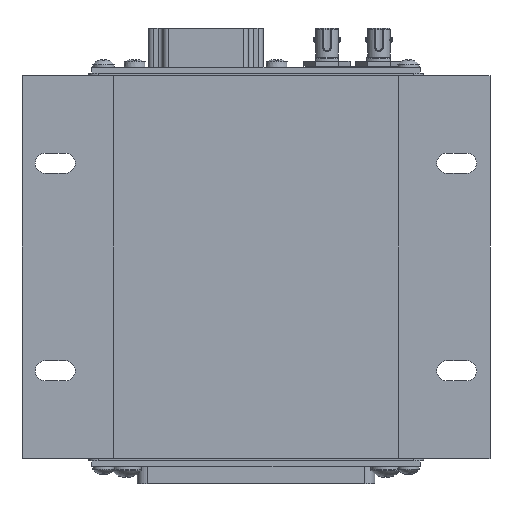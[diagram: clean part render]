
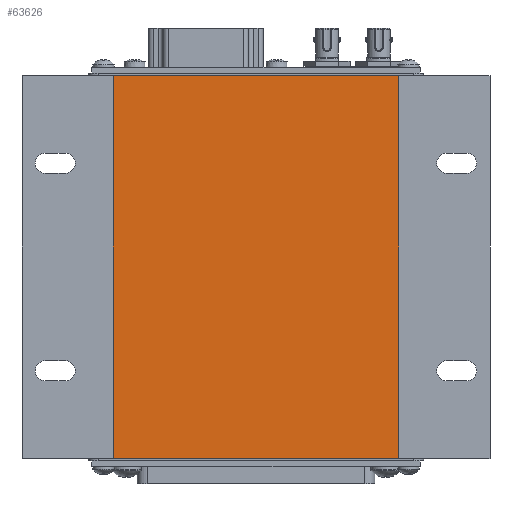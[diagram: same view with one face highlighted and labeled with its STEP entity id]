
A CAD part, front view. The second image highlights one B-rep face of the part: STEP entity #63626.
In plain terms, the highlighted planar face has unit normal (0, -1, 0).
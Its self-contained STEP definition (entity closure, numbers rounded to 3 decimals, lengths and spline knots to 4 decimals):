
#4375=PLANE('',#67920);
#7450=FACE_OUTER_BOUND('',#11049,.T.);
#11049=EDGE_LOOP('',(#45470,#45471,#45472,#45473));
#15290=LINE('',#90403,#21726);
#15303=LINE('',#90432,#21739);
#15304=LINE('',#90435,#21740);
#15305=LINE('',#90436,#21741);
#21726=VECTOR('',#73433,0.3937);
#21739=VECTOR('',#73456,0.3937);
#21740=VECTOR('',#73459,0.3937);
#21741=VECTOR('',#73460,0.3937);
#30045=VERTEX_POINT('',#90400);
#30046=VERTEX_POINT('',#90402);
#30057=VERTEX_POINT('',#90430);
#30058=VERTEX_POINT('',#90434);
#36165=EDGE_CURVE('',#30046,#30045,#15290,.T.);
#36180=EDGE_CURVE('',#30045,#30057,#15303,.T.);
#36181=EDGE_CURVE('',#30057,#30058,#15304,.T.);
#36182=EDGE_CURVE('',#30046,#30058,#15305,.T.);
#45470=ORIENTED_EDGE('',*,*,#36181,.T.);
#45471=ORIENTED_EDGE('',*,*,#36182,.F.);
#45472=ORIENTED_EDGE('',*,*,#36165,.T.);
#45473=ORIENTED_EDGE('',*,*,#36180,.T.);
#63626=ADVANCED_FACE('',(#7450),#4375,.T.);
#67920=AXIS2_PLACEMENT_3D('',#90433,#73457,#73458);
#73433=DIRECTION('',(1.,0.,0.));
#73456=DIRECTION('',(0.,0.,1.));
#73457=DIRECTION('center_axis',(0.,-1.,0.));
#73458=DIRECTION('ref_axis',(0.,0.,-1.));
#73459=DIRECTION('',(-1.,0.,0.));
#73460=DIRECTION('',(0.,0.,1.));
#90400=CARTESIAN_POINT('',(1.7914,-1.4059,-2.4));
#90402=CARTESIAN_POINT('',(-1.7913,-1.4059,-2.4));
#90403=CARTESIAN_POINT('',(-1.7913,-1.4059,-2.4));
#90430=CARTESIAN_POINT('',(1.7914,-1.4059,2.4));
#90432=CARTESIAN_POINT('',(1.7914,-1.4059,0.));
#90433=CARTESIAN_POINT('Origin',(1.7914,-1.4059,0.));
#90434=CARTESIAN_POINT('',(-1.7913,-1.4059,2.4));
#90435=CARTESIAN_POINT('',(-1.7913,-1.4059,2.4));
#90436=CARTESIAN_POINT('',(-1.7913,-1.4059,0.));
